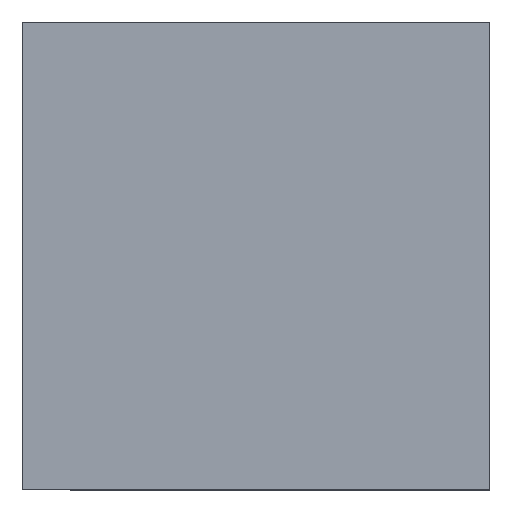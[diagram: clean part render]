
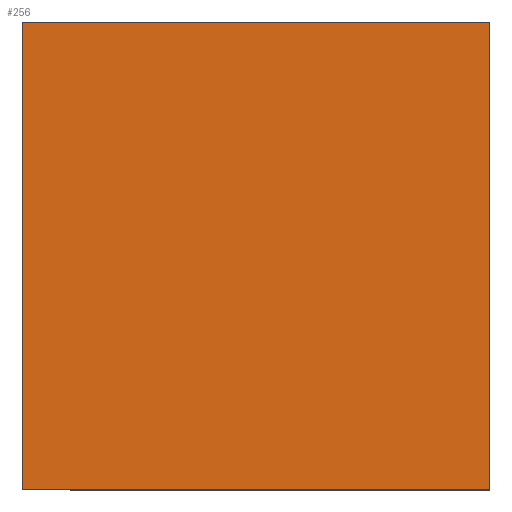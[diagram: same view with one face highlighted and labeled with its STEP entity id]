
A CAD part, top view. The second image highlights one B-rep face of the part: STEP entity #256.
In plain terms, the highlighted planar face has unit normal (0, 0, 1).
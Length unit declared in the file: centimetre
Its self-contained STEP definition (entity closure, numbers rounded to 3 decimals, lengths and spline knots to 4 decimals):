
#3 = VERTEX_POINT ( 'NONE', #291 ) ;
#8 = CARTESIAN_POINT ( 'NONE',  ( 0., 1000., 1000. ) ) ;
#14 = ORIENTED_EDGE ( 'NONE', *, *, #283, .T. ) ;
#21 = DIRECTION ( 'NONE',  ( -1., 0., 0. ) ) ;
#26 = CARTESIAN_POINT ( 'NONE',  ( 0., 1000., 1000. ) ) ;
#45 = DIRECTION ( 'NONE',  ( 0., -1., 0. ) ) ;
#66 = EDGE_LOOP ( 'NONE', ( #322, #165, #328, #14 ) ) ;
#71 = PLANE ( 'NONE',  #303 ) ;
#80 = DIRECTION ( 'NONE',  ( 1., 0., 0. ) ) ;
#108 = FACE_OUTER_BOUND ( 'NONE', #66, .T. ) ;
#110 = CARTESIAN_POINT ( 'NONE',  ( 0., 0., 1000. ) ) ;
#118 = VERTEX_POINT ( 'NONE', #8 ) ;
#133 = DIRECTION ( 'NONE',  ( 0., 0., 1. ) ) ;
#162 = EDGE_CURVE ( 'NONE', #3, #254, #205, .T. ) ;
#165 = ORIENTED_EDGE ( 'NONE', *, *, #276, .T. ) ;
#169 = LINE ( 'NONE', #197, #216 ) ;
#189 = VECTOR ( 'NONE', #272, 100. ) ;
#197 = CARTESIAN_POINT ( 'NONE',  ( 0., 0., 1000. ) ) ;
#205 = LINE ( 'NONE', #237, #189 ) ;
#216 = VECTOR ( 'NONE', #362, 100. ) ;
#236 = EDGE_CURVE ( 'NONE', #118, #253, #238, .T. ) ;
#237 = CARTESIAN_POINT ( 'NONE',  ( 1000., 1000., 1000. ) ) ;
#238 = LINE ( 'NONE', #26, #356 ) ;
#253 = VERTEX_POINT ( 'NONE', #110 ) ;
#254 = VERTEX_POINT ( 'NONE', #266 ) ;
#256 = ADVANCED_FACE ( 'NONE', ( #108 ), #71, .T. ) ;
#266 = CARTESIAN_POINT ( 'NONE',  ( 1000., 1000., 1000. ) ) ;
#272 = DIRECTION ( 'NONE',  ( 0., 1., 0. ) ) ;
#276 = EDGE_CURVE ( 'NONE', #253, #3, #169, .T. ) ;
#283 = EDGE_CURVE ( 'NONE', #254, #118, #299, .T. ) ;
#291 = CARTESIAN_POINT ( 'NONE',  ( 1000., 0., 1000. ) ) ;
#299 = LINE ( 'NONE', #329, #326 ) ;
#303 = AXIS2_PLACEMENT_3D ( 'NONE', #333, #133, #80 ) ;
#322 = ORIENTED_EDGE ( 'NONE', *, *, #236, .T. ) ;
#326 = VECTOR ( 'NONE', #21, 100. ) ;
#328 = ORIENTED_EDGE ( 'NONE', *, *, #162, .T. ) ;
#329 = CARTESIAN_POINT ( 'NONE',  ( 0., 1000., 1000. ) ) ;
#333 = CARTESIAN_POINT ( 'NONE',  ( 0., 0., 1000. ) ) ;
#356 = VECTOR ( 'NONE', #45, 100. ) ;
#362 = DIRECTION ( 'NONE',  ( 1., 0., 0. ) ) ;
